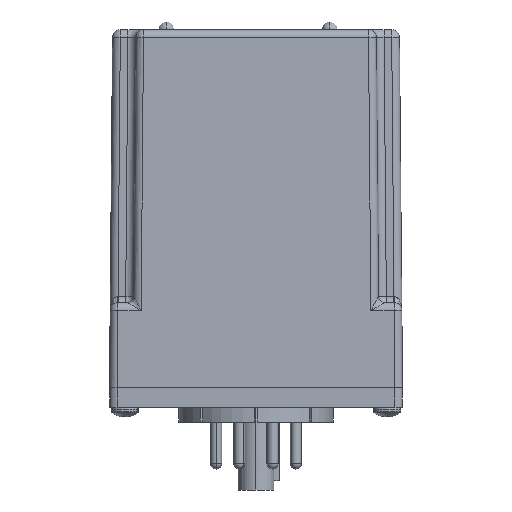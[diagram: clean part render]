
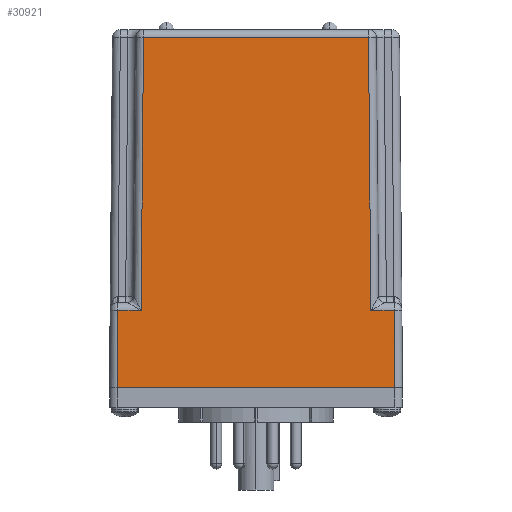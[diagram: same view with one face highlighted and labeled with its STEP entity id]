
A CAD part, left-side view. The second image highlights one B-rep face of the part: STEP entity #30921.
In plain terms, the highlighted planar face has unit normal (-1, 0, 0.009).
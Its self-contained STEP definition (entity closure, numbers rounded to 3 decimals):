
#628 = ORIENTED_EDGE ( 'NONE', *, *, #26587, .T. ) ;
#1057 = VERTEX_POINT ( 'NONE', #31537 ) ;
#1150 = ORIENTED_EDGE ( 'NONE', *, *, #10254, .T. ) ;
#1170 = VERTEX_POINT ( 'NONE', #16451 ) ;
#1201 = VERTEX_POINT ( 'NONE', #12125 ) ;
#1808 = DIRECTION ( 'NONE',  ( -0.009, 0.009, -1. ) ) ;
#2334 = EDGE_CURVE ( 'NONE', #1057, #14705, #6336, .T. ) ;
#3163 = DIRECTION ( 'NONE',  ( 0., 1., 0. ) ) ;
#3761 = ORIENTED_EDGE ( 'NONE', *, *, #2334, .T. ) ;
#3817 = EDGE_CURVE ( 'NONE', #1170, #14813, #12403, .T. ) ;
#5198 = DIRECTION ( 'NONE',  ( 0.009, 0., 1. ) ) ;
#5389 = CARTESIAN_POINT ( 'NONE',  ( -22.225, -30.163, 0. ) ) ;
#5464 = CARTESIAN_POINT ( 'NONE',  ( -22.225, -28.562, 0. ) ) ;
#6006 = ORIENTED_EDGE ( 'NONE', *, *, #35007, .T. ) ;
#6336 = LINE ( 'NONE', #12625, #16557 ) ;
#7384 = FACE_OUTER_BOUND ( 'NONE', #19753, .T. ) ;
#7937 = DIRECTION ( 'NONE',  ( 0.009, 0.009, 1. ) ) ;
#8161 = VERTEX_POINT ( 'NONE', #10756 ) ;
#8273 = EDGE_CURVE ( 'NONE', #14705, #1170, #26332, .T. ) ;
#8578 = CARTESIAN_POINT ( 'NONE',  ( -22.225, -28.562, -0.014 ) ) ;
#9976 = CARTESIAN_POINT ( 'NONE',  ( -21.596, 23.144, 72.074 ) ) ;
#9995 = EDGE_CURVE ( 'NONE', #1201, #26760, #25163, .T. ) ;
#10254 = EDGE_CURVE ( 'NONE', #8161, #34602, #16350, .T. ) ;
#10668 = CARTESIAN_POINT ( 'NONE',  ( -22.086, 28.41, 15.889 ) ) ;
#10756 = CARTESIAN_POINT ( 'NONE',  ( -22.086, 23.649, 15.889 ) ) ;
#11443 = LINE ( 'NONE', #23456, #21308 ) ;
#11485 = DIRECTION ( 'NONE',  ( -1., 0., 0.009 ) ) ;
#11789 = VECTOR ( 'NONE', #3163, 1000. ) ;
#12125 = CARTESIAN_POINT ( 'NONE',  ( -21.596, -23.158, 72.074 ) ) ;
#12394 = ORIENTED_EDGE ( 'NONE', *, *, #3817, .T. ) ;
#12403 = LINE ( 'NONE', #18087, #11789 ) ;
#12625 = CARTESIAN_POINT ( 'NONE',  ( -22.225, -30.163, 0. ) ) ;
#14705 = VERTEX_POINT ( 'NONE', #5464 ) ;
#14813 = VERTEX_POINT ( 'NONE', #26551 ) ;
#16350 = LINE ( 'NONE', #10668, #26097 ) ;
#16451 = CARTESIAN_POINT ( 'NONE',  ( -22.086, -28.424, 15.889 ) ) ;
#16557 = VECTOR ( 'NONE', #18310, 1000. ) ;
#17747 = PLANE ( 'NONE',  #22088 ) ;
#18087 = CARTESIAN_POINT ( 'NONE',  ( -22.086, -23.635, 15.889 ) ) ;
#18310 = DIRECTION ( 'NONE',  ( 0., -1., 0. ) ) ;
#18641 = VECTOR ( 'NONE', #7937, 1000. ) ;
#19574 = LINE ( 'NONE', #26503, #36983 ) ;
#19753 = EDGE_LOOP ( 'NONE', ( #628, #1150, #36938, #3761, #20400, #12394, #6006, #22720 ) ) ;
#19977 = DIRECTION ( 'NONE',  ( 0.009, 0.009, 1. ) ) ;
#20297 = CARTESIAN_POINT ( 'NONE',  ( -22.225, -23.788, -0.056 ) ) ;
#20400 = ORIENTED_EDGE ( 'NONE', *, *, #8273, .T. ) ;
#21308 = VECTOR ( 'NONE', #1808, 1000. ) ;
#22088 = AXIS2_PLACEMENT_3D ( 'NONE', #5389, #11485, #5198 ) ;
#22720 = ORIENTED_EDGE ( 'NONE', *, *, #9995, .T. ) ;
#23456 = CARTESIAN_POINT ( 'NONE',  ( -22.221, 23.783, 0.471 ) ) ;
#25163 = LINE ( 'NONE', #9976, #33767 ) ;
#25475 = LINE ( 'NONE', #20297, #18641 ) ;
#26097 = VECTOR ( 'NONE', #31043, 1000. ) ;
#26332 = LINE ( 'NONE', #8578, #34082 ) ;
#26503 = CARTESIAN_POINT ( 'NONE',  ( -22.221, 28.558, 0.512 ) ) ;
#26551 = CARTESIAN_POINT ( 'NONE',  ( -22.086, -23.649, 15.889 ) ) ;
#26587 = EDGE_CURVE ( 'NONE', #26760, #8161, #11443, .T. ) ;
#26760 = VERTEX_POINT ( 'NONE', #27211 ) ;
#27211 = CARTESIAN_POINT ( 'NONE',  ( -21.596, 23.158, 72.074 ) ) ;
#28325 = DIRECTION ( 'NONE',  ( 0., 1., 0. ) ) ;
#30921 = ADVANCED_FACE ( 'NONE', ( #7384 ), #17747, .T. ) ;
#31043 = DIRECTION ( 'NONE',  ( 0., 1., 0. ) ) ;
#31537 = CARTESIAN_POINT ( 'NONE',  ( -22.225, 28.562, 0. ) ) ;
#32278 = DIRECTION ( 'NONE',  ( -0.009, 0.009, -1. ) ) ;
#33767 = VECTOR ( 'NONE', #28325, 1000. ) ;
#33889 = CARTESIAN_POINT ( 'NONE',  ( -22.086, 28.424, 15.889 ) ) ;
#34082 = VECTOR ( 'NONE', #19977, 1000. ) ;
#34084 = EDGE_CURVE ( 'NONE', #34602, #1057, #19574, .T. ) ;
#34602 = VERTEX_POINT ( 'NONE', #33889 ) ;
#35007 = EDGE_CURVE ( 'NONE', #14813, #1201, #25475, .T. ) ;
#36938 = ORIENTED_EDGE ( 'NONE', *, *, #34084, .T. ) ;
#36983 = VECTOR ( 'NONE', #32278, 1000. ) ;
